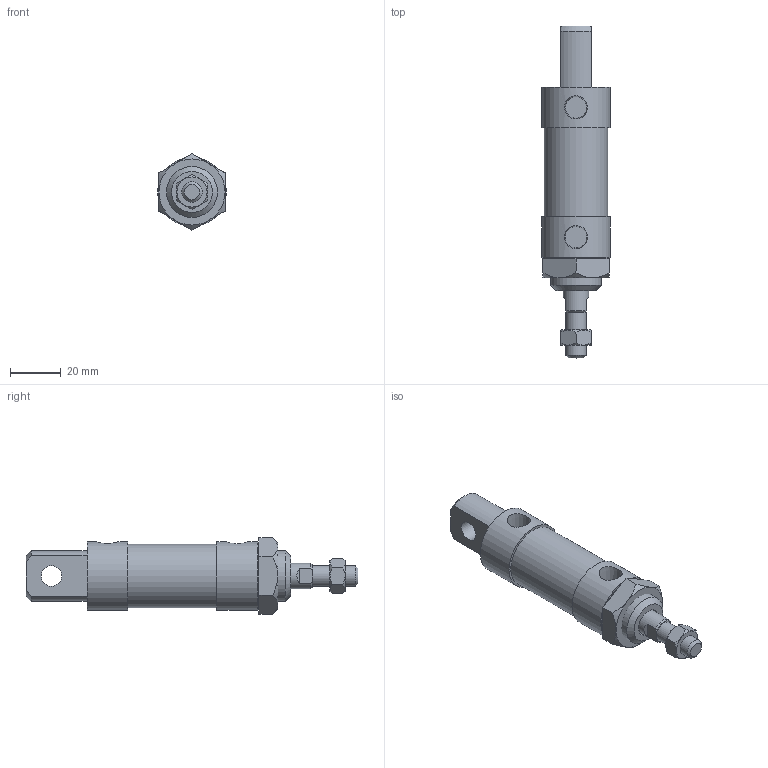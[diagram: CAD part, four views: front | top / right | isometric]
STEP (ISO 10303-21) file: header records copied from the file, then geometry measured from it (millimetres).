
FILE_DESCRIPTION(/* description */ ('Unknown'),/* implementation_level */ '2;1');
FILE_NAME(/* name */ 'WK20-SD',/* time_stamp */ '2026-07-17T16:28:51+08:00',/* author */ ('Unknown'),/* organization */ ('Unknown'),/* preprocessor_version */ 'ST-DEVELOPER v16.7',/* originating_system */ 'DEX',/* authorisation */ $);
FILE_SCHEMA (('CONFIG_CONTROL_DESIGN'));
Length unit declared in the file: millimetre
Products named in the file (7): WK20-SD; WK20_前s; WK20_､ﾟｶbｬ｡_;m^XD}; WK20_SD; M20-1.5P-8_螺; M8-1.25P-6_Á³HoleEndChamfer
Assembly tree (6 placements, depth 2):
  WK20-SD
    WK20_前s
    (unnamed)
    WK20_､ﾟｶbｬ｡_;m^XD}
    WK20_SD
    M20-1.5P-8_螺
    M8-1.25P-6_Á³HoleEndChamfer
Bounding box: 27 x 130.5 x 30.02 mm (x, y, z)
Volume: 48770.8 mm3; surface area: 21046.8 mm2
Topology: 6 solids, 6 shells, 85 faces, 180 edges, 114 vertices
Faces by surface type: plane 45, cone 23, cylinder 17
Full cylindrical faces by diameter (mm): 6.8 x1, 8 x2, 10 x2, 18.376 x1, 19.5 x1, 20 x2, 22 x2, 25 x1, 26 x1, 27 x2
Entity records: 2884 total; most frequent: CARTESIAN_POINT 512, DIRECTION 358, ORIENTED_EDGE 284, AXIS2_PLACEMENT_3D 158, EDGE_CURVE 142, EDGE_LOOP 130, FACE_BOUND 130, VERTEX_POINT 104
